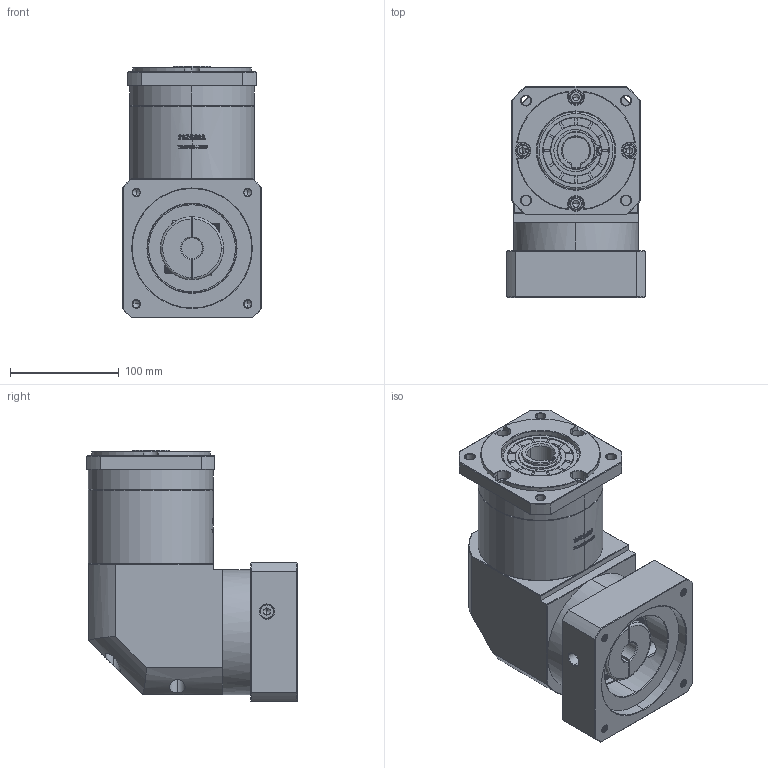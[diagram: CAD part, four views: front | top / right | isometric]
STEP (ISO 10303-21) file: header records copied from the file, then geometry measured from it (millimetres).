
FILE_DESCRIPTION (( 'STEP AP214' ), '1' );
FILE_NAME ('ZFR120A-K25-L2-19-110-145-M8.step', '2023-03-08T08:30:52', ( '' ), ( '' ), 'SwSTEP 2.0', 'SolidWorks 2016', '' );
FILE_SCHEMA (( 'AUTOMOTIVE_DESIGN' ));
Length unit declared in the file: millimetre
Products named in the file (1): ZFR120A-K25-L2-19-110-145-M8
Bounding box: 128 x 193.9 x 231.5 mm (x, y, z)
Volume: 3231159.5 mm3; surface area: 259755.5 mm2
Topology: 6 solids, 6 shells, 2814 faces, 7518 edges, 4849 vertices
Faces by surface type: plane 1477, bspline 598, cylinder 401, cone 330, torus 8
Entity records: 152395 total; most frequent: CARTESIAN_POINT 56868, ORIENTED_EDGE 14980, DIRECTION 10909, EDGE_CURVE 7490, VERTEX_POINT 4849, LINE 4695, VECTOR 4695, AXIS2_PLACEMENT_3D 3107
